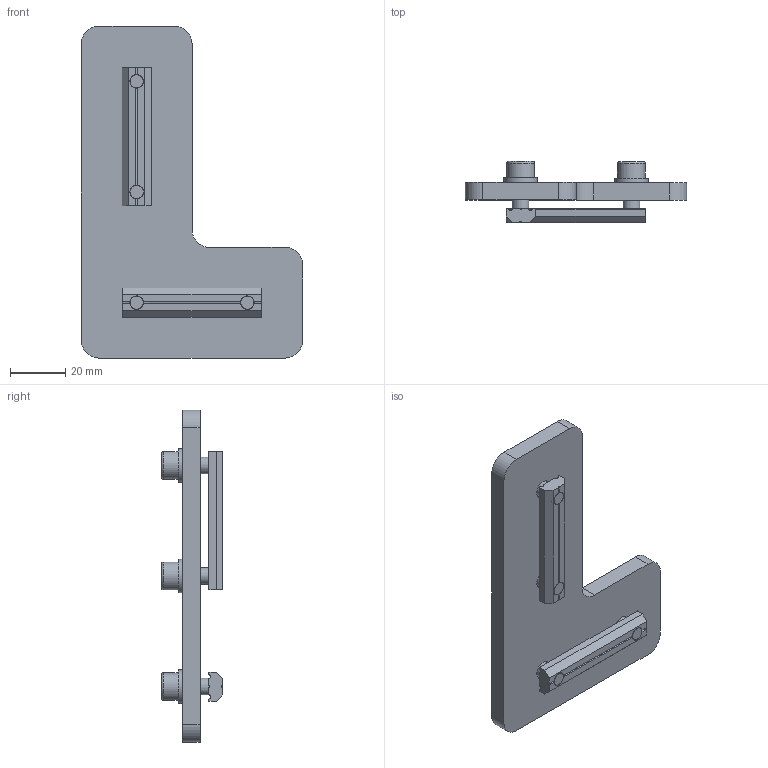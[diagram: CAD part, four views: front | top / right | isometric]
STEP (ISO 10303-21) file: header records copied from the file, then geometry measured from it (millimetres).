
FILE_DESCRIPTION(/* description */ ('Profile Angle Connector 90°'),/* implementation_level */ '2;1');
FILE_NAME(/* name */ 'PAC-L-80-120.STEP',/* time_stamp */ '2026-02-10T15:08:01-05:00',/* author */ ('Design2'),/* organization */ ('CCS Design LLC'),/* preprocessor_version */ 'ST-DEVELOPER v20',/* originating_system */ 'Autodesk Inventor 2025',/* authorisation */ '');
FILE_SCHEMA (('AUTOMOTIVE_DESIGN { 1 0 10303 214 3 1 1 }'));
Length unit declared in the file: inch
Products named in the file (5): PAC-L-80-120_MIR; M-PAC-L-80-120_MIR; CN-6-40_MIR; ANSI B18.3.1M - M6x1 x 16; ASME B18.21.2M - 6A_MIR
Assembly tree (11 placements, depth 2):
  PAC-L-80-120_MIR
    M-PAC-L-80-120_MIR
    CN-6-40_MIR  x2
    ANSI B18.3.1M - M6x1 x 16  x4
    ASME B18.21.2M - 6A_MIR  x4
Bounding box: 80 x 22 x 120 mm (x, y, z)
Volume: 47600.5 mm3; surface area: 22565 mm2
Topology: 11 solids, 11 shells, 146 faces, 384 edges, 256 vertices
Faces by surface type: plane 80, cylinder 50, torus 8, cone 8
Full cylindrical faces by diameter (mm): 4.928 x4, 6 x4, 6.604 x4, 10 x4
Entity records: 2412 total; most frequent: CARTESIAN_POINT 507, DIRECTION 372, ORIENTED_EDGE 334, EDGE_CURVE 167, AXIS2_PLACEMENT_3D 142, VERTEX_POINT 112, LINE 88, VECTOR 88
